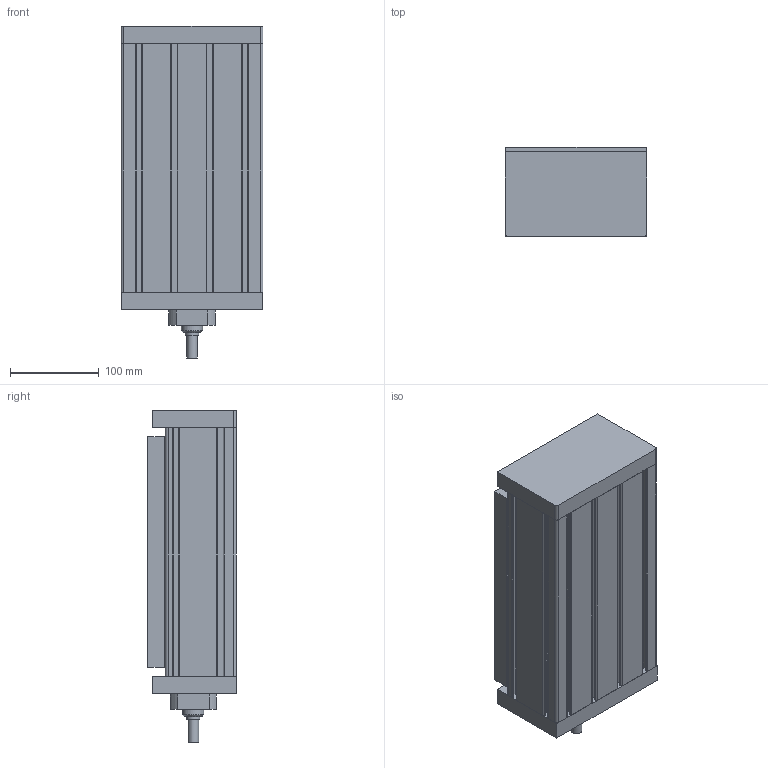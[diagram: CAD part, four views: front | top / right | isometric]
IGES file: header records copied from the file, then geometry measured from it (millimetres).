
Global section: file name: No Iges File Name specified; native system: Autodesk Inventor 2012; preprocessor: AutoDesk Inventor Iges Exporter R2012; author: disegnatore3; date: 20160912.142404; units: millimetre
Bounding box: 160 x 100 x 374.1 mm (x, y, z)
Volume: 4810748.6 mm3; surface area: 405019.6 mm2
Topology: 4 solids, 4 shells, 166 faces, 473 edges, 319 vertices
Faces by surface type: plane 96, cylinder 41, revolution 28, cone 1
Full cylindrical faces by diameter (mm): 12 x1, 15 x1, 24 x1
